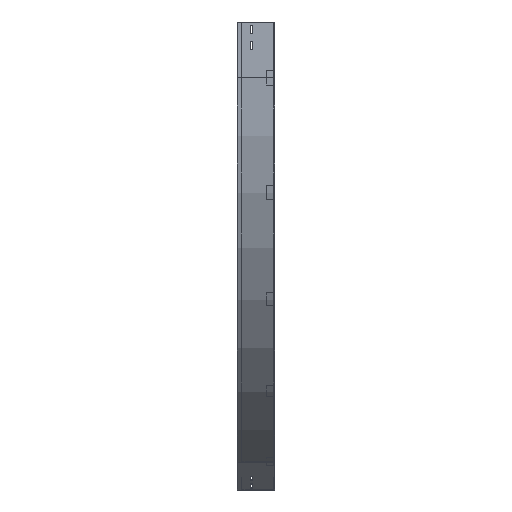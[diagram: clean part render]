
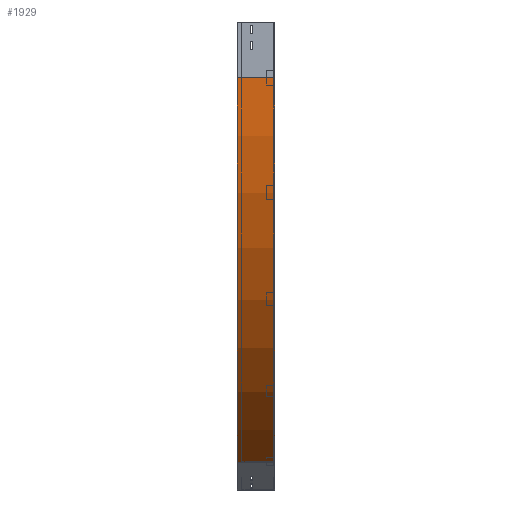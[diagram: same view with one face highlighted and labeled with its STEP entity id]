
A CAD part, left-side view. The second image highlights one B-rep face of the part: STEP entity #1929.
In plain terms, the highlighted cylindrical face has radius 1200 mm (diameter 2400 mm), a partial arc.
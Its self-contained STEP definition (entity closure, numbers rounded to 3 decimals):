
#169 = AXIS2_PLACEMENT_3D ( 'NONE', #1593, #2169, #2560 ) ;
#240 = EDGE_CURVE ( 'NONE', #443, #1556, #2051, .T. ) ;
#270 = CARTESIAN_POINT ( 'NONE',  ( 1200., 0., -150. ) ) ;
#333 = ORIENTED_EDGE ( 'NONE', *, *, #3516, .F. ) ;
#443 = VERTEX_POINT ( 'NONE', #957 ) ;
#740 = CARTESIAN_POINT ( 'NONE',  ( 600., 100., -1189.23 ) ) ;
#748 = CYLINDRICAL_SURFACE ( 'NONE', #169, 1200. ) ;
#781 = DIRECTION ( 'NONE',  ( -1., 0., 0. ) ) ;
#945 = LINE ( 'NONE', #3015, #3796 ) ;
#957 = CARTESIAN_POINT ( 'NONE',  ( 0., 0., -150. ) ) ;
#1111 = CARTESIAN_POINT ( 'NONE',  ( 0., 100., -150. ) ) ;
#1131 = VERTEX_POINT ( 'NONE', #740 ) ;
#1201 = EDGE_CURVE ( 'NONE', #2573, #1131, #2341, .T. ) ;
#1307 = LINE ( 'NONE', #2746, #3695 ) ;
#1556 = VERTEX_POINT ( 'NONE', #3719 ) ;
#1593 = CARTESIAN_POINT ( 'NONE',  ( 1200., 0., -150. ) ) ;
#1619 = ORIENTED_EDGE ( 'NONE', *, *, #1201, .T. ) ;
#1624 = EDGE_LOOP ( 'NONE', ( #3694, #333, #1619, #2066 ) ) ;
#1855 = DIRECTION ( 'NONE',  ( 0., -1., 0. ) ) ;
#1905 = FACE_OUTER_BOUND ( 'NONE', #1624, .T. ) ;
#1929 = ADVANCED_FACE ( 'NONE', ( #1905 ), #748, .T. ) ;
#2051 = CIRCLE ( 'NONE', #3052, 1200. ) ;
#2066 = ORIENTED_EDGE ( 'NONE', *, *, #2212, .T. ) ;
#2134 = DIRECTION ( 'NONE',  ( 0., -1., 0. ) ) ;
#2169 = DIRECTION ( 'NONE',  ( 0., -1., 0. ) ) ;
#2212 = EDGE_CURVE ( 'NONE', #1131, #1556, #945, .T. ) ;
#2341 = CIRCLE ( 'NONE', #2718, 1200. ) ;
#2560 = DIRECTION ( 'NONE',  ( 0., 0., -1. ) ) ;
#2573 = VERTEX_POINT ( 'NONE', #1111 ) ;
#2718 = AXIS2_PLACEMENT_3D ( 'NONE', #3133, #1855, #3050 ) ;
#2722 = DIRECTION ( 'NONE',  ( 0., -1., 0. ) ) ;
#2746 = CARTESIAN_POINT ( 'NONE',  ( 0., 0., -150. ) ) ;
#3015 = CARTESIAN_POINT ( 'NONE',  ( 600., 0., -1189.23 ) ) ;
#3050 = DIRECTION ( 'NONE',  ( -1., 0., 0. ) ) ;
#3052 = AXIS2_PLACEMENT_3D ( 'NONE', #270, #3848, #781 ) ;
#3133 = CARTESIAN_POINT ( 'NONE',  ( 1200., 100., -150. ) ) ;
#3516 = EDGE_CURVE ( 'NONE', #2573, #443, #1307, .T. ) ;
#3694 = ORIENTED_EDGE ( 'NONE', *, *, #240, .F. ) ;
#3695 = VECTOR ( 'NONE', #2134, 1000. ) ;
#3719 = CARTESIAN_POINT ( 'NONE',  ( 600., 0., -1189.23 ) ) ;
#3796 = VECTOR ( 'NONE', #2722, 1000. ) ;
#3848 = DIRECTION ( 'NONE',  ( 0., -1., 0. ) ) ;
